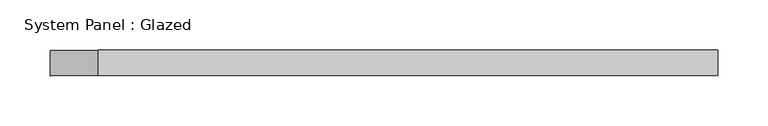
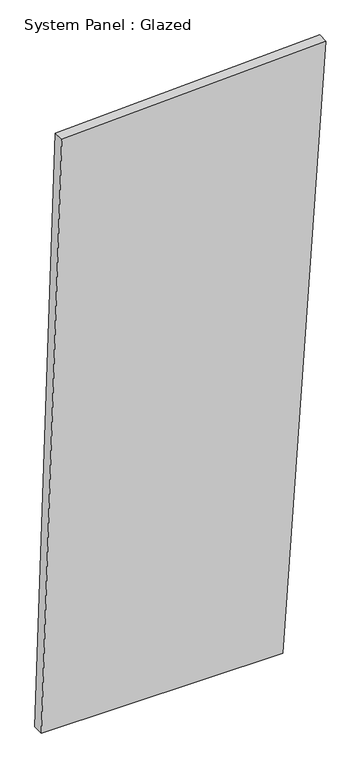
"""IFC4 building model written with IfcOpenShell, lengths in millimetres: plate geometry, System Panel : Glazed."""

from ifc_helpers import new_model, si_unit, frame, origin, place, context, project, spatial, polyline, outline, extrude, source, transform, mapped, element, save


def system_panel_glazed_1b8318ba(model_context):
    return source(origin(), model_context, "Body", "SweptSolid", [
        extrude(outline(polyline([(0.0, -331.6162293), (0.0, 231.3014333), (1471.6381866, 331.6162293), (1445.5275569, -283.8320057), (0.0, -331.6162293)])), frame((0.0, -44.45, 0.0), z_axis=(0.0, 1.0, 0.0), x_axis=(0.0, 0.0, 1.0)), (0.0, 0.0, 1.0), 25.4),
    ])


if __name__ == "__main__":
    model = new_model("IFC4")
    model_context = context("Model", 3, world=origin())
    ifc_project = project(units=[si_unit("LENGTHUNIT", "METRE", prefix="MILLI")], contexts=[model_context])
    site = spatial("IfcSite", under=ifc_project)
    building = spatial("IfcBuilding", under=site)
    placement = place(None, origin())
    system_panel_glazed_shape = system_panel_glazed_1b8318ba(model_context)
    element("IfcPlate", 1, ObjectType="System Panel : Glazed", at=placement, inside=building, context=model_context, shape_type="MappedRepresentation", body=[
        mapped(system_panel_glazed_shape, transform((0.0, 0.0, 0.0), x_axis=(1.0, 0.0, 0.0), y_axis=(0.0, 1.0, 0.0), z_axis=(0.0, 0.0, 1.0))),
    ])
    save(model, "model.ifc")
